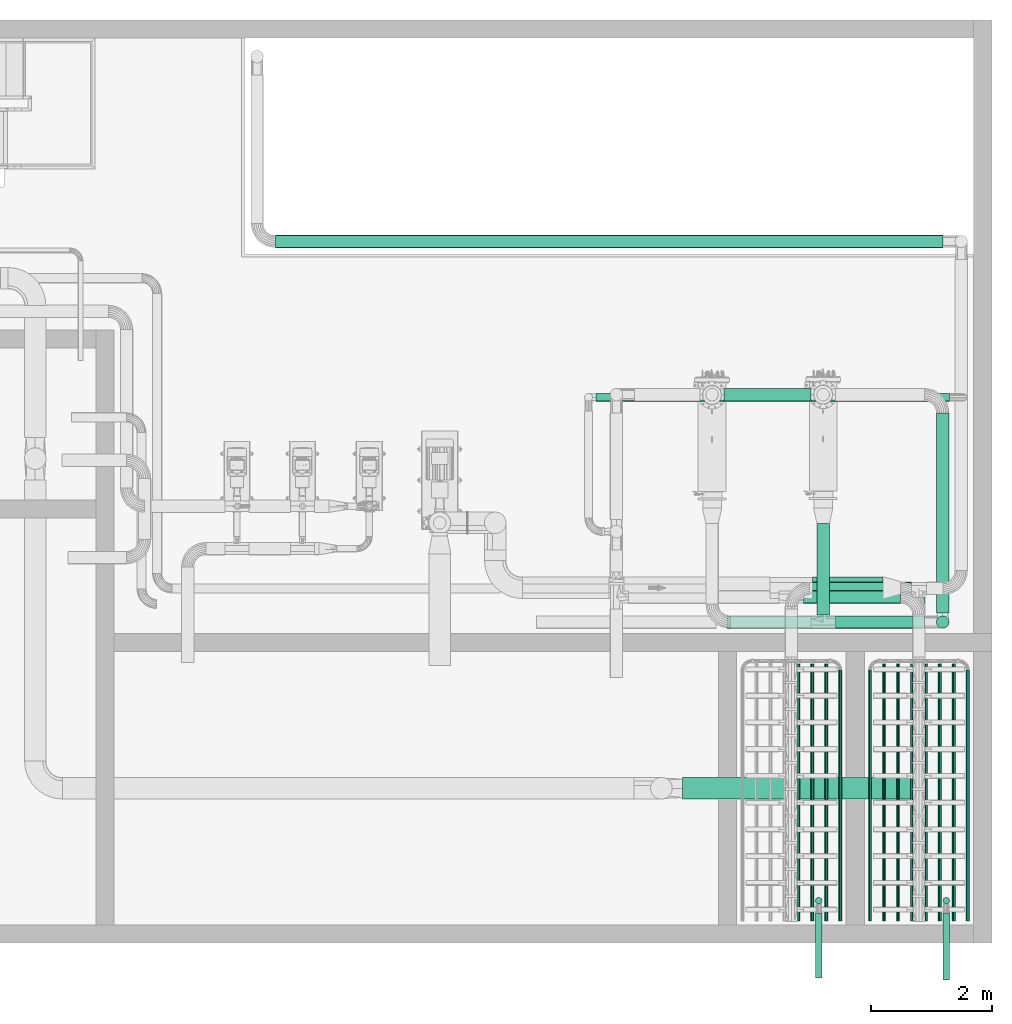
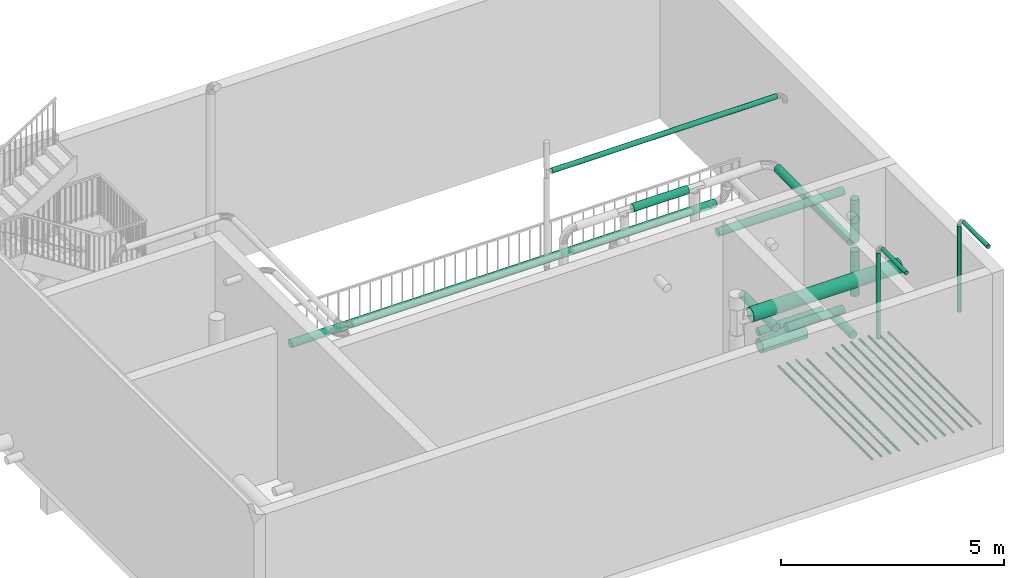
# One storey, part 7 of 28: 30 flow segments.
"""IFC2X3 building model written with IfcOpenShell, lengths in millimetres."""

from ifc_helpers import new_model, entity, si_unit, converted_unit, direction, frame, frame_2d, origin, origin_2d_with_axis, place, context, subcontext, project, spatial, circle, extrude, material, type_object, element, save


model = new_model("IFC2X3")

# Units and contexts
model_context = context("Model", 3, precision=0.01, world=origin(), true_north=direction((6.123031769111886e-17, 1.0)))
body_context = subcontext(model_context, "Body", "Model", "MODEL_VIEW")
ifc_project = project(units=[si_unit("LENGTHUNIT", "METRE", prefix="MILLI"), converted_unit("PLANEANGLEUNIT", "DEGREE", entity("IfcPlaneAngleMeasure", 0.017453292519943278), si_unit("PLANEANGLEUNIT", "RADIAN"), dimensions=[0, 0, 0, 0, 0, 0, 0]), si_unit("AREAUNIT", "SQUARE_METRE")], contexts=[model_context])

# Site, building, storey
site_placement = place(None, frame((7776.576483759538, 118.3519876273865, 0.0)))
site = spatial("IfcSite", under=ifc_project, at=site_placement, Name="Default", CompositionType="ELEMENT")
building_placement = place(site_placement, origin())
building = spatial("IfcBuilding", under=site, at=building_placement, Name="Bygning (endres i Project Information)", CompositionType="ELEMENT")
storey_placement = place(building_placement, frame((0.0, 0.0, 14000.0)))
storey = spatial("IfcBuildingStorey", under=building, at=storey_placement, Name="Plan U1 - Arbeid", CompositionType="ELEMENT", Elevation=14000.000000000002)

# Flow segments
ifc_material = material(Name="SS 2343 Rustfritt stål, prosessrør, generisk")
pipe_segment_type = type_object("IfcPipeSegmentType", Name="Pipe Types:AISI 304L Rustfritt", PredefinedType="NOTDEFINED", material=ifc_material)
flow_segment_1_placement = place(storey_placement, origin())
element("IfcFlowSegment", 1, at=flow_segment_1_placement, inside=storey, type_object=pipe_segment_type, Name="Pipe Types:AISI 304L Rustfritt", ObjectType="Pipe Types:AISI 304L Rustfritt", context=body_context, shape_type="SweptSolid", body=[
    extrude(circle(Radius=178.0, at=origin_2d_with_axis()), frame((27184.00137486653, 21947.75730578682, 3803.0), z_axis=(1.0, 0.0, 0.0), x_axis=(0.0, -1.0, 0.0)), (0.0, 0.0, 1.0), 3852.0374734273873),
])
flow_segment_2_placement = place(storey_placement, origin())
element("IfcFlowSegment", 2, at=flow_segment_2_placement, inside=storey, type_object=pipe_segment_type, Name="Pipe Types:AISI 304L Rustfritt", ObjectType="Pipe Types:AISI 304L Rustfritt", context=body_context, shape_type="SweptSolid", body=[
    extrude(circle(Radius=103.0, at=origin_2d_with_axis()), frame((29174.00137486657, 25097.757305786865, 3803.0), z_axis=(1.0, 0.0, 0.0), x_axis=(0.0, -1.0, 0.0)), (0.0, 0.0, 1.0), 1599.9999999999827),
])
flow_segment_3_placement = place(storey_placement, origin())
element("IfcFlowSegment", 3, at=flow_segment_3_placement, inside=storey, type_object=pipe_segment_type, Name="Pipe Types:AISI 304L Rustfritt", ObjectType="Pipe Types:AISI 304L Rustfritt", context=body_context, shape_type="SweptSolid", body=[
    extrude(circle(Radius=103.0, at=frame_2d((0.0, 2.1657342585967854e-12), x_axis=(1.0, 0.0))), frame((27867.696048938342, 28429.853940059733, 2552.29607990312), z_axis=(1.0, 0.0, 0.0), x_axis=(0.0, -1.0, 0.0)), (0.0, 0.0, 1.0), 1429.5679156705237),
])
flow_segment_4_placement = place(storey_placement, origin())
element("IfcFlowSegment", 4, at=flow_segment_4_placement, inside=storey, type_object=pipe_segment_type, Name="Pipe Types:AISI 304L Rustfritt", ObjectType="Pipe Types:AISI 304L Rustfritt", context=body_context, shape_type="SweptSolid", body=[
    extrude(circle(Radius=103.0, at=frame_2d((4.331468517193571e-12, 0.0), x_axis=(1.0, 0.0))), frame((31074.001374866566, 24069.75730578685, 603.0), z_axis=(0.0, 1.0, 0.0), x_axis=(-1.0, 0.0, 0.0)), (0.0, 0.0, 1.0), 1017.8500000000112),
])
flow_segment_5_placement = place(storey_placement, origin())
element("IfcFlowSegment", 5, at=flow_segment_5_placement, inside=storey, type_object=pipe_segment_type, Name="Pipe Types:AISI 304L Rustfritt", ObjectType="Pipe Types:AISI 304L Rustfritt", context=body_context, shape_type="SweptSolid", body=[
    extrude(circle(Radius=178.0, at=frame_2d((0.0, -2.1657342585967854e-12), x_axis=(1.0, 0.0))), frame((29324.00137486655, 25247.757305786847, 203.0), z_axis=(1.0, 0.0, 0.0), x_axis=(0.0, -1.0, 0.0)), (0.0, 0.0, 1.0), 1160.2999999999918),
])
flow_segment_6_placement = place(storey_placement, origin())
element("IfcFlowSegment", 6, at=flow_segment_6_placement, inside=storey, type_object=pipe_segment_type, Name="Pipe Types:AISI 304L Rustfritt", ObjectType="Pipe Types:AISI 304L Rustfritt", context=body_context, shape_type="SweptSolid", body=[
    extrude(circle(Radius=103.0, at=origin_2d_with_axis()), frame((29497.26396460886, 24800.043020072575, 903.5000000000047), z_axis=(0.0, 1.0, 0.0), x_axis=(-1.0, 0.0, 0.0)), (0.0, 0.0, 1.0), 1507.714285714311),
])
flow_segment_7_placement = place(storey_placement, origin())
element("IfcFlowSegment", 7, at=flow_segment_7_placement, inside=storey, type_object=pipe_segment_type, Name="Pipe Types:AISI 304L Rustfritt", ObjectType="Pipe Types:AISI 304L Rustfritt", context=body_context, shape_type="SweptSolid", body=[
    extrude(circle(Radius=103.0, at=frame_2d((0.0, 2.1657342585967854e-12), x_axis=(1.0, 0.0))), frame((29697.26396460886, 24685.75730578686, 903.5000000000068), z_axis=(1.0, 0.0, 0.0), x_axis=(0.0, -1.0, 0.0)), (0.0, 0.0, 1.0), 1467.737410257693),
])
flow_segment_8_placement = place(storey_placement, origin())
element("IfcFlowSegment", 8, at=flow_segment_8_placement, inside=storey, type_object=pipe_segment_type, Name="Pipe Types:AISI 304L Rustfritt", ObjectType="Pipe Types:AISI 304L Rustfritt", context=body_context, shape_type="SweptSolid", body=[
    extrude(circle(Radius=65.5, at=origin_2d_with_axis()), frame((25759.001374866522, 28385.82368856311, 4334.499999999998), z_axis=(1.0, 0.0, 0.0), x_axis=(0.0, 1.0, 0.0)), (0.0, 0.0, 1.0), 5817.799947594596),
])
flow_segment_9_placement = place(storey_placement, origin())
element("IfcFlowSegment", 9, at=flow_segment_9_placement, inside=storey, type_object=pipe_segment_type, Name="Pipe Types:AISI 304L Rustfritt", ObjectType="Pipe Types:AISI 304L Rustfritt", context=body_context, shape_type="SweptSolid", body=[
    extrude(circle(Radius=27.0, at=frame_2d((-8.662937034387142e-12, 0.0), x_axis=(1.0, 0.0))), frame((29779.001374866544, 19762.757305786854, 500.0), z_axis=(0.0, 1.0, 0.0), x_axis=(-1.0, 0.0, 0.0)), (0.0, 0.0, 1.0), 4129.999999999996),
])
flow_segment_10_placement = place(storey_placement, origin())
element("IfcFlowSegment", 10, at=flow_segment_10_placement, inside=storey, type_object=pipe_segment_type, Name="Pipe Types:AISI 304L Rustfritt", ObjectType="Pipe Types:AISI 304L Rustfritt", context=body_context, shape_type="SweptSolid", body=[
    extrude(circle(Radius=27.0, at=origin_2d_with_axis()), frame((29089.001374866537, 19762.757305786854, 500.0), z_axis=(0.0, 1.0, 0.0), x_axis=(-1.0, 0.0, 0.0)), (0.0, 0.0, 1.0), 4230.0),
])
flow_segment_11_placement = place(storey_placement, origin())
element("IfcFlowSegment", 11, at=flow_segment_11_placement, inside=storey, type_object=pipe_segment_type, Name="Pipe Types:AISI 304L Rustfritt", ObjectType="Pipe Types:AISI 304L Rustfritt", context=body_context, shape_type="SweptSolid", body=[
    extrude(circle(Radius=27.0, at=origin_2d_with_axis()), frame((29319.001374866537, 19762.75730578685, 500.0), z_axis=(0.0, 1.0, 0.0), x_axis=(-1.0, 0.0, 0.0)), (0.0, 0.0, 1.0), 4230.000000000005),
])
flow_segment_12_placement = place(storey_placement, origin())
element("IfcFlowSegment", 12, at=flow_segment_12_placement, inside=storey, type_object=pipe_segment_type, Name="Pipe Types:AISI 304L Rustfritt", ObjectType="Pipe Types:AISI 304L Rustfritt", context=body_context, shape_type="SweptSolid", body=[
    extrude(circle(Radius=27.0, at=origin_2d_with_axis()), frame((29549.001374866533, 19762.75730578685, 500.0), z_axis=(0.0, 1.0, 0.0), x_axis=(-1.0, 0.0, 0.0)), (0.0, 0.0, 1.0), 4230.000000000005),
])
flow_segment_13_placement = place(storey_placement, origin())
element("IfcFlowSegment", 13, at=flow_segment_13_placement, inside=storey, type_object=pipe_segment_type, Name="Pipe Types:AISI 304L Rustfritt", ObjectType="Pipe Types:AISI 304L Rustfritt", context=body_context, shape_type="SweptSolid", body=[
    extrude(circle(Radius=27.0, at=frame_2d((-4.331468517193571e-12, 0.0), x_axis=(1.0, 0.0))), frame((31879.001374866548, 19762.757305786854, 500.0), z_axis=(0.0, 1.0, 0.0), x_axis=(-1.0, 0.0, 0.0)), (0.0, 0.0, 1.0), 4129.999999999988),
])
flow_segment_14_placement = place(storey_placement, origin())
element("IfcFlowSegment", 14, at=flow_segment_14_placement, inside=storey, type_object=pipe_segment_type, Name="Pipe Types:AISI 304L Rustfritt", ObjectType="Pipe Types:AISI 304L Rustfritt", context=body_context, shape_type="SweptSolid", body=[
    extrude(circle(Radius=27.0, at=frame_2d((-8.662937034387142e-12, 0.0), x_axis=(1.0, 0.0))), frame((30269.001374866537, 19762.757305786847, 500.0), z_axis=(0.0, 1.0, 0.0), x_axis=(-1.0, 0.0, 0.0)), (0.0, 0.0, 1.0), 4130.000000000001),
])
flow_segment_15_placement = place(storey_placement, origin())
element("IfcFlowSegment", 15, at=flow_segment_15_placement, inside=storey, type_object=pipe_segment_type, Name="Pipe Types:AISI 304L Rustfritt", ObjectType="Pipe Types:AISI 304L Rustfritt", context=body_context, shape_type="SweptSolid", body=[
    extrude(circle(Radius=27.0, at=frame_2d((-8.662937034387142e-12, 0.0), x_axis=(1.0, 0.0))), frame((30499.001374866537, 19762.757305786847, 500.0), z_axis=(0.0, 1.0, 0.0), x_axis=(-1.0, 0.0, 0.0)), (0.0, 0.0, 1.0), 4230.0),
])
flow_segment_16_placement = place(storey_placement, origin())
element("IfcFlowSegment", 16, at=flow_segment_16_placement, inside=storey, type_object=pipe_segment_type, Name="Pipe Types:AISI 304L Rustfritt", ObjectType="Pipe Types:AISI 304L Rustfritt", context=body_context, shape_type="SweptSolid", body=[
    extrude(circle(Radius=27.0, at=frame_2d((-8.662937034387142e-12, 0.0), x_axis=(1.0, 0.0))), frame((30729.001374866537, 19762.757305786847, 500.0), z_axis=(0.0, 1.0, 0.0), x_axis=(-1.0, 0.0, 0.0)), (0.0, 0.0, 1.0), 4230.0),
])
flow_segment_17_placement = place(storey_placement, origin())
element("IfcFlowSegment", 17, at=flow_segment_17_placement, inside=storey, type_object=pipe_segment_type, Name="Pipe Types:AISI 304L Rustfritt", ObjectType="Pipe Types:AISI 304L Rustfritt", context=body_context, shape_type="SweptSolid", body=[
    extrude(circle(Radius=27.0, at=origin_2d_with_axis()), frame((30959.001374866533, 19762.75730578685, 500.0), z_axis=(0.0, 1.0, 0.0), x_axis=(-1.0, 0.0, 0.0)), (0.0, 0.0, 1.0), 4229.999999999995),
])
flow_segment_18_placement = place(storey_placement, origin())
element("IfcFlowSegment", 18, at=flow_segment_18_placement, inside=storey, type_object=pipe_segment_type, Name="Pipe Types:AISI 304L Rustfritt", ObjectType="Pipe Types:AISI 304L Rustfritt", context=body_context, shape_type="SweptSolid", body=[
    extrude(circle(Radius=27.0, at=origin_2d_with_axis()), frame((31189.001374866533, 19762.757305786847, 500.0), z_axis=(0.0, 1.0, 0.0), x_axis=(-1.0, 0.0, 0.0)), (0.0, 0.0, 1.0), 4230.0),
])
flow_segment_19_placement = place(storey_placement, origin())
element("IfcFlowSegment", 19, at=flow_segment_19_placement, inside=storey, type_object=pipe_segment_type, Name="Pipe Types:AISI 304L Rustfritt", ObjectType="Pipe Types:AISI 304L Rustfritt", context=body_context, shape_type="SweptSolid", body=[
    extrude(circle(Radius=27.0, at=origin_2d_with_axis()), frame((31419.001374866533, 19762.757305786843, 500.0), z_axis=(0.0, 1.0, 0.0), x_axis=(-1.0, 0.0, 0.0)), (0.0, 0.0, 1.0), 4230.000000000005),
])
flow_segment_20_placement = place(storey_placement, origin())
element("IfcFlowSegment", 20, at=flow_segment_20_placement, inside=storey, type_object=pipe_segment_type, Name="Pipe Types:AISI 304L Rustfritt", ObjectType="Pipe Types:AISI 304L Rustfritt", context=body_context, shape_type="SweptSolid", body=[
    extrude(circle(Radius=27.0, at=origin_2d_with_axis()), frame((31649.001374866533, 19762.757305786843, 500.0), z_axis=(0.0, 1.0, 0.0), x_axis=(-1.0, 0.0, 0.0)), (0.0, 0.0, 1.0), 4230.000000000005),
])
flow_segment_21_placement = place(storey_placement, origin())
element("IfcFlowSegment", 21, at=flow_segment_21_placement, inside=storey, type_object=pipe_segment_type, Name="Pipe Types:AISI 304L Rustfritt", ObjectType="Pipe Types:AISI 304L Rustfritt", context=body_context, shape_type="SweptSolid", body=[
    extrude(circle(Radius=103.0, at=frame_2d((1.6249929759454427e-40, 1.0828671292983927e-11), x_axis=(1.0, 0.0))), frame((31465.001374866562, 24835.907305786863, 2552.2960799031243), z_axis=(0.0, 1.0, 0.0), x_axis=(-1.0, 0.0, 0.0)), (0.0, 0.0, 1.0), 3293.9466342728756),
])
flow_segment_22_placement = place(storey_placement, origin())
element("IfcFlowSegment", 22, at=flow_segment_22_placement, inside=storey, type_object=pipe_segment_type, Name="Pipe Types:AISI 304L Rustfritt", ObjectType="Pipe Types:AISI 304L Rustfritt", context=body_context, shape_type="SweptSolid", body=[
    extrude(circle(Radius=103.0, at=frame_2d((0.0, -2.1657342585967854e-12), x_axis=(1.0, 0.0))), frame((27911.601374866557, 24685.75730578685, 4140.0), z_axis=(1.0, 0.0, 0.0), x_axis=(0.0, -1.0, 0.0)), (0.0, 0.0, 1.0), 3253.399999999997),
])
flow_segment_23_placement = place(storey_placement, origin())
element("IfcFlowSegment", 23, at=flow_segment_23_placement, inside=storey, type_object=pipe_segment_type, Name="Pipe Types:AISI 304L Rustfritt", ObjectType="Pipe Types:AISI 304L Rustfritt", context=body_context, shape_type="SweptSolid", body=[
    extrude(circle(Radius=103.0, at=origin_2d_with_axis()), frame((31465.00137486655, 24685.75730578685, 2677.396079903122), z_axis=(0.0, 0.0, 1.0), x_axis=(-1.0, 0.0, 0.0)), (0.0, 0.0, 1.0), 1162.6039200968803),
])
flow_segment_24_placement = place(storey_placement, origin())
element("IfcFlowSegment", 24, at=flow_segment_24_placement, inside=storey, type_object=pipe_segment_type, Name="Pipe Types:AISI 304L Rustfritt", ObjectType="Pipe Types:AISI 304L Rustfritt", context=body_context, shape_type="SweptSolid", body=[
    extrude(circle(Radius=53.0, at=origin_2d_with_axis()), frame((31524.001374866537, 20097.757305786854, 3500.0), z_axis=(0.0, 0.0, 1.0), x_axis=(-1.0, 0.0, 0.0)), (0.0, 0.0, 1.0), 2353.2965677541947),
])
flow_segment_25_placement = place(storey_placement, origin())
element("IfcFlowSegment", 25, at=flow_segment_25_placement, inside=storey, type_object=pipe_segment_type, Name="Pipe Types:AISI 304L Rustfritt", ObjectType="Pipe Types:AISI 304L Rustfritt", context=body_context, shape_type="SweptSolid", body=[
    extrude(circle(Radius=53.0, at=frame_2d((3.61179396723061e-41, -4.331468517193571e-12), x_axis=(1.0, 0.0))), frame((31524.001374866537, 18791.75730578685, 6053.29656775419), z_axis=(0.0, 1.0, 0.0), x_axis=(-1.0, 0.0, 0.0)), (0.0, 0.0, 1.0), 1105.9999999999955),
])
flow_segment_26_placement = place(storey_placement, origin())
element("IfcFlowSegment", 26, at=flow_segment_26_placement, inside=storey, type_object=pipe_segment_type, Name="Pipe Types:AISI 304L Rustfritt", ObjectType="Pipe Types:AISI 304L Rustfritt", context=body_context, shape_type="SweptSolid", body=[
    extrude(circle(Radius=53.0, at=origin_2d_with_axis()), frame((29424.00137486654, 20097.757305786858, 3500.0), z_axis=(0.0, 0.0, 1.0), x_axis=(-1.0, 0.0, 0.0)), (0.0, 0.0, 1.0), 2353.2965677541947),
])
flow_segment_27_placement = place(storey_placement, origin())
element("IfcFlowSegment", 27, at=flow_segment_27_placement, inside=storey, type_object=pipe_segment_type, Name="Pipe Types:AISI 304L Rustfritt", ObjectType="Pipe Types:AISI 304L Rustfritt", context=body_context, shape_type="SweptSolid", body=[
    extrude(circle(Radius=53.0, at=frame_2d((-4.331468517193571e-12, -4.331468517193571e-12), x_axis=(1.0, 0.0))), frame((29424.001374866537, 18826.3878338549, 6053.29656775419), z_axis=(0.0, 1.0, 0.0), x_axis=(-1.0, 0.0, 0.0)), (0.0, 0.0, 1.0), 1071.3694719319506),
])
flow_segment_28_placement = place(storey_placement, origin())
element("IfcFlowSegment", 28, at=flow_segment_28_placement, inside=storey, type_object=pipe_segment_type, Name="Pipe Types:AISI 304L Rustfritt", ObjectType="Pipe Types:AISI 304L Rustfritt", context=body_context, shape_type="SweptSolid", body=[
    extrude(circle(Radius=103.0, at=origin_2d_with_axis()), frame((31465.00137486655, 24685.75730578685, 1203.5000000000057), z_axis=(0.0, 0.0, 1.0), x_axis=(-1.0, 0.0, 0.0)), (0.0, 0.0, 1.0), 1223.6960799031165),
])
flow_segment_29_placement = place(storey_placement, origin())
element("IfcFlowSegment", 29, at=flow_segment_29_placement, inside=storey, type_object=pipe_segment_type, Name="Pipe Types:AISI 304L Rustfritt", ObjectType="Pipe Types:AISI 304L Rustfritt", context=body_context, shape_type="SweptSolid", body=[
    extrude(circle(Radius=103.0, at=frame_2d((0.0, -2.1657342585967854e-12), x_axis=(1.0, 0.0))), frame((29274.00137486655, 25237.75730578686, 603.0), z_axis=(1.0, 0.0, 0.0), x_axis=(0.0, -1.0, 0.0)), (0.0, 0.0, 1.0), 1674.9000000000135),
])
flow_segment_30_placement = place(storey_placement, origin())
element("IfcFlowSegment", 30, at=flow_segment_30_placement, inside=storey, type_object=pipe_segment_type, Name="Pipe Types:AISI 304L Rustfritt", ObjectType="Pipe Types:AISI 304L Rustfritt", context=body_context, shape_type="SweptSolid", body=[
    extrude(circle(Radius=103.0, at=frame_2d((0.0, 2.1657342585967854e-12), x_axis=(1.0, 0.0))), frame((20477.001374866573, 30950.757305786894, -103.0), z_axis=(1.0, 0.0, 0.0), x_axis=(0.0, -1.0, 0.0)), (0.0, 0.0, 1.0), 10993.99999999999),
])

save(model, "model.ifc")
